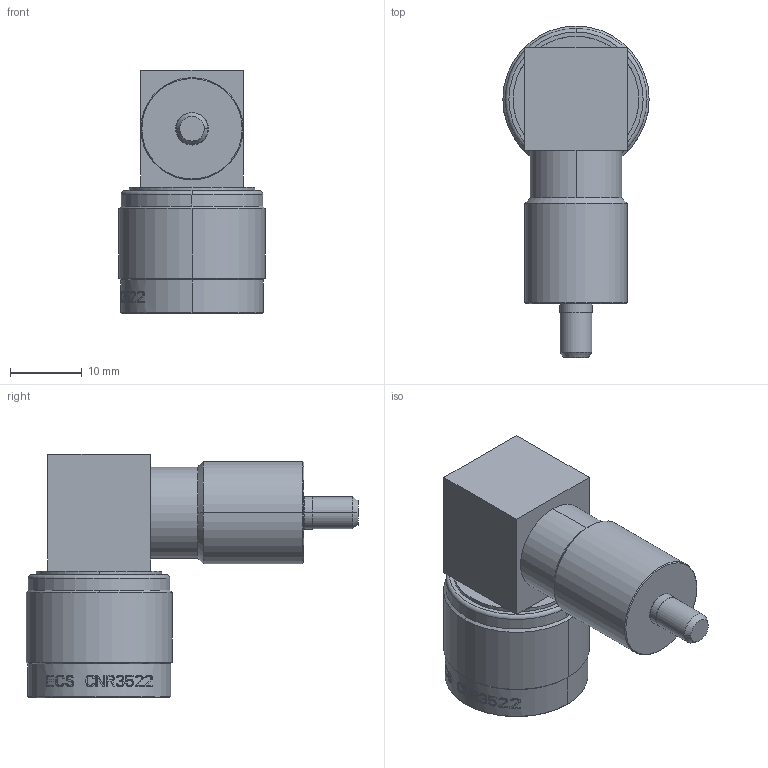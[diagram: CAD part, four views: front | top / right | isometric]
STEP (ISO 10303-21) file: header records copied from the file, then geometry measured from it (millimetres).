
FILE_DESCRIPTION((''),'2;1');
FILE_NAME('CNR3522','2019-12-03T08:26:55',('paul.nurczyk'),('Carlisle Interconnect Technologies'),'CREO PARAMETRIC BY PTC INC, 2017260','CREO PARAMETRIC BY PTC INC, 2017260','');
FILE_SCHEMA(('CONFIG_CONTROL_DESIGN'));
Length unit declared in the file: inch
Products named in the file (1): CNR3522
Bounding box: 20.32 x 46.13 x 33.78 mm (x, y, z)
Volume: 10600.3 mm3; surface area: 4565.5 mm2
Topology: 1 solids, 1 shells, 435 faces, 1209 edges, 798 vertices
Faces by surface type: bspline 232, plane 136, cylinder 43, cone 18, torus 6
Entity records: 19343 total; most frequent: CARTESIAN_POINT 8670, ORIENTED_EDGE 2418, DIRECTION 1972, EDGE_CURVE 1209, VERTEX_POINT 798, AXIS2_PLACEMENT_3D 737, CIRCLE 534, VECTOR 498
